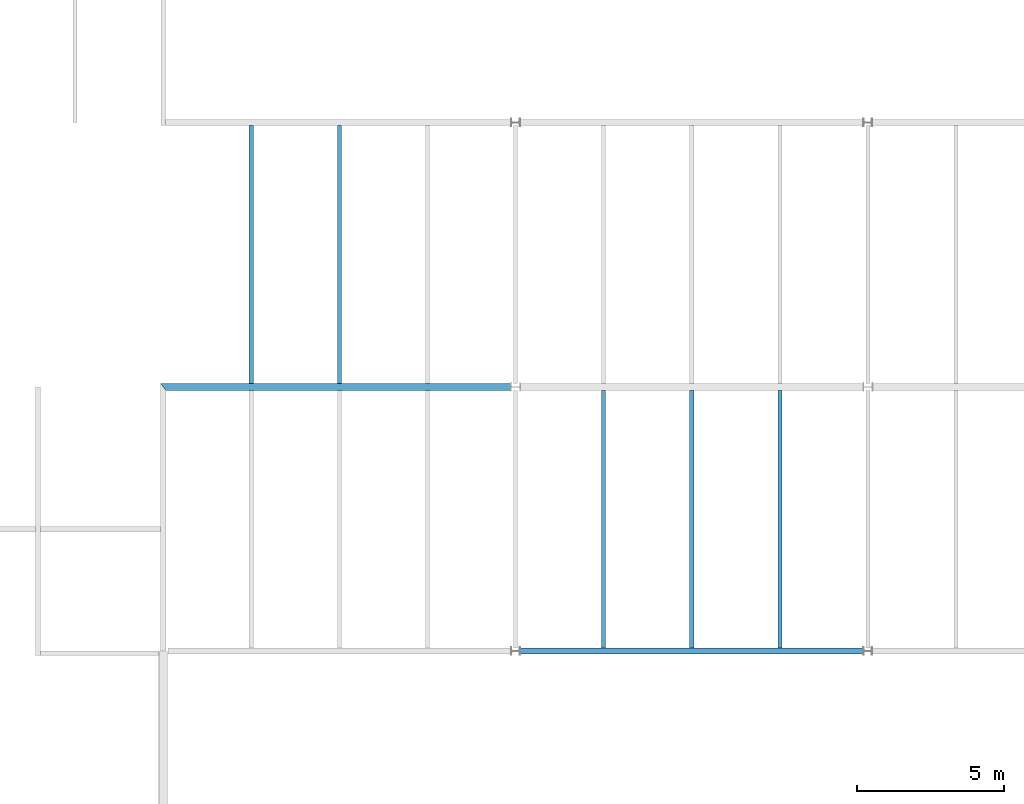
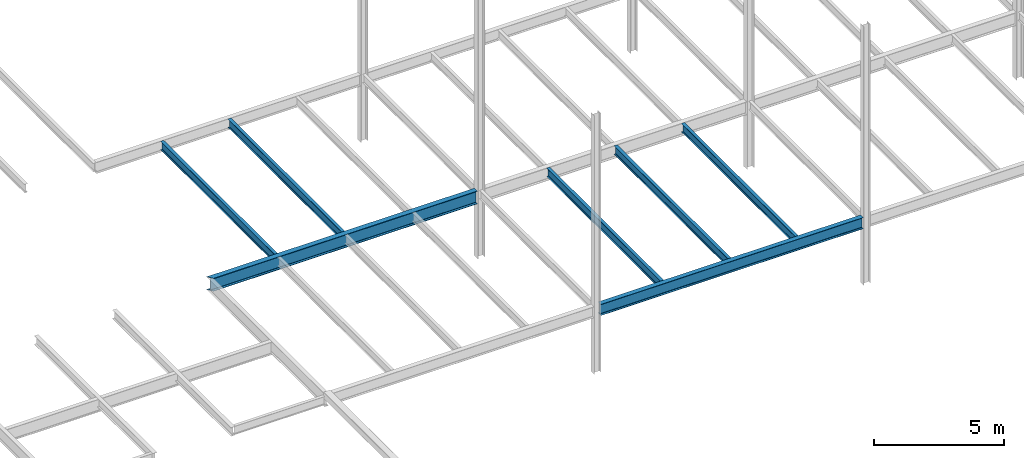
# One storey, part 16 of 26: 7 beams.
"""IFC2X3 building model written with IfcOpenShell, lengths in millimetres."""

from ifc_helpers import new_model, si_unit, origin, place, context, project, spatial, faceted_brep, material, element, save


model = new_model("IFC2X3")

# Units and contexts
context_of_model = context(None, 3, precision=1e-05, world=origin())
ifc_project = project(units=[si_unit("LENGTHUNIT", "METRE", prefix="MILLI")], contexts=[context_of_model])

# Building, storey
building = spatial("IfcBuilding", under=ifc_project, Name="Building", CompositionType="ELEMENT")
storey = spatial("IfcBuildingStorey", under=building, Name="FL4-FRM", CompositionType="ELEMENT")

# Beams
ifc_material_1 = material(Name="A992")
beam_1_placement = place(None, origin())
element("IfcBeam", 1, at=beam_1_placement, inside=storey, material=ifc_material_1, Name="B199", context=context_of_model, shape_type="Brep", body=[
    faceted_brep([(27070.0, 9104.5, 12974.0), (26930.0, 9104.5, 12974.0), (26930.0, 17885.5, 12974.0), (27070.0, 17885.5, 12974.0), (26930.0, 9104.5, 12982.8), (26930.0, 17885.5, 12982.8), (26986.6, 9104.5, 12982.8), (26986.6, 17885.5, 12982.8), (26989.2, 9104.5, 12983.1), (26989.2, 17885.5, 12983.1), (26991.7, 9104.5, 12984.2), (26991.7, 17885.5, 12984.2), (26993.8, 9104.5, 12985.8), (26993.8, 17885.5, 12985.8), (26995.4, 9104.5, 12987.9), (26995.4, 17885.5, 12987.9), (26996.5, 9104.5, 12990.4), (26996.5, 17885.5, 12990.4), (26996.8, 9104.5, 12993.0), (26996.8, 17885.5, 12993.0), (26996.8, 9104.5, 13354.0), (26996.8, 17885.5, 13354.0), (26996.5, 9104.5, 13356.6), (26996.5, 17885.5, 13356.6), (26995.4, 9104.5, 13359.1), (26995.4, 17885.5, 13359.1), (26993.8, 9104.5, 13361.2), (26993.8, 17885.5, 13361.2), (26991.7, 9104.5, 13362.8), (26991.7, 17885.5, 13362.8), (26989.2, 9104.5, 13363.9), (26989.2, 17885.5, 13363.9), (26986.6, 9104.5, 13364.2), (26986.6, 17885.5, 13364.2), (26930.0, 9104.5, 13364.2), (26930.0, 17885.5, 13364.2), (26930.0, 9104.5, 13373.0), (26930.0, 17885.5, 13373.0), (27070.0, 9104.5, 13373.0), (27070.0, 17885.5, 13373.0), (27070.0, 9104.5, 13364.2), (27070.0, 17885.5, 13364.2), (27013.4, 9104.5, 13364.2), (27013.4, 17885.5, 13364.2), (27010.8, 9104.5, 13363.9), (27010.8, 17885.5, 13363.9), (27008.3, 9104.5, 13362.8), (27008.3, 17885.5, 13362.8), (27006.2, 9104.5, 13361.2), (27006.2, 17885.5, 13361.2), (27004.6, 9104.5, 13359.1), (27004.6, 17885.5, 13359.1), (27003.5, 9104.5, 13356.6), (27003.5, 17885.5, 13356.6), (27003.2, 9104.5, 13354.0), (27003.2, 17885.5, 13354.0), (27003.2, 9104.5, 12993.0), (27003.2, 17885.5, 12993.0), (27003.5, 9104.5, 12990.4), (27003.5, 17885.5, 12990.4), (27004.6, 9104.5, 12987.9), (27004.6, 17885.5, 12987.9), (27006.2, 9104.5, 12985.8), (27006.2, 17885.5, 12985.8), (27008.3, 9104.5, 12984.2), (27008.3, 17885.5, 12984.2), (27010.8, 9104.5, 12983.1), (27010.8, 17885.5, 12983.1), (27013.4, 9104.5, 12982.8), (27013.4, 17885.5, 12982.8), (27070.0, 9104.5, 12982.8), (27070.0, 17885.5, 12982.8)], [[[0, 1, 2, 3]], [[1, 4, 5, 2]], [[4, 6, 7, 5]], [[6, 8, 9, 7]], [[8, 10, 11, 9]], [[10, 12, 13, 11]], [[12, 14, 15, 13]], [[14, 16, 17, 15]], [[16, 18, 19, 17]], [[18, 20, 21, 19]], [[20, 22, 23, 21]], [[22, 24, 25, 23]], [[24, 26, 27, 25]], [[26, 28, 29, 27]], [[28, 30, 31, 29]], [[30, 32, 33, 31]], [[32, 34, 35, 33]], [[34, 36, 37, 35]], [[36, 38, 39, 37]], [[38, 40, 41, 39]], [[40, 42, 43, 41]], [[42, 44, 45, 43]], [[44, 46, 47, 45]], [[46, 48, 49, 47]], [[48, 50, 51, 49]], [[50, 52, 53, 51]], [[52, 54, 55, 53]], [[54, 56, 57, 55]], [[56, 58, 59, 57]], [[58, 60, 61, 59]], [[60, 62, 63, 61]], [[62, 64, 65, 63]], [[64, 66, 67, 65]], [[66, 68, 69, 67]], [[68, 70, 71, 69]], [[70, 0, 3, 71]], [[0, 70, 68, 66, 64, 62, 60, 58, 56, 54, 52, 50, 48, 46, 44, 42, 40, 38, 36, 34, 32, 30, 28, 26, 24, 22, 20, 18, 16, 14, 12, 10, 8, 6, 4, 1]], [[3, 2, 5, 7, 9, 11, 13, 15, 17, 19, 21, 23, 25, 27, 29, 31, 33, 35, 37, 39, 41, 43, 45, 47, 49, 51, 53, 55, 57, 59, 61, 63, 65, 67, 69, 71]]]),
])
ifc_material_2 = material(Name="A992")
beam_2_placement = place(None, origin())
element("IfcBeam", 2, at=beam_2_placement, inside=storey, material=ifc_material_2, Name="B200", context=context_of_model, shape_type="Brep", body=[
    faceted_brep([(30070.0, 9104.5, 12974.0), (29930.0, 9104.5, 12974.0), (29930.0, 17885.5, 12974.0), (30070.0, 17885.5, 12974.0), (29930.0, 9104.5, 12982.8), (29930.0, 17885.5, 12982.8), (29986.6, 9104.5, 12982.8), (29986.6, 17885.5, 12982.8), (29989.2, 9104.5, 12983.1), (29989.2, 17885.5, 12983.1), (29991.7, 9104.5, 12984.2), (29991.7, 17885.5, 12984.2), (29993.8, 9104.5, 12985.8), (29993.8, 17885.5, 12985.8), (29995.4, 9104.5, 12987.9), (29995.4, 17885.5, 12987.9), (29996.5, 9104.5, 12990.4), (29996.5, 17885.5, 12990.4), (29996.8, 9104.5, 12993.0), (29996.8, 17885.5, 12993.0), (29996.8, 9104.5, 13354.0), (29996.8, 17885.5, 13354.0), (29996.5, 9104.5, 13356.6), (29996.5, 17885.5, 13356.6), (29995.4, 9104.5, 13359.1), (29995.4, 17885.5, 13359.1), (29993.8, 9104.5, 13361.2), (29993.8, 17885.5, 13361.2), (29991.7, 9104.5, 13362.8), (29991.7, 17885.5, 13362.8), (29989.2, 9104.5, 13363.9), (29989.2, 17885.5, 13363.9), (29986.6, 9104.5, 13364.2), (29986.6, 17885.5, 13364.2), (29930.0, 9104.5, 13364.2), (29930.0, 17885.5, 13364.2), (29930.0, 9104.5, 13373.0), (29930.0, 17885.5, 13373.0), (30070.0, 9104.5, 13373.0), (30070.0, 17885.5, 13373.0), (30070.0, 9104.5, 13364.2), (30070.0, 17885.5, 13364.2), (30013.4, 9104.5, 13364.2), (30013.4, 17885.5, 13364.2), (30010.8, 9104.5, 13363.9), (30010.8, 17885.5, 13363.9), (30008.3, 9104.5, 13362.8), (30008.3, 17885.5, 13362.8), (30006.2, 9104.5, 13361.2), (30006.2, 17885.5, 13361.2), (30004.6, 9104.5, 13359.1), (30004.6, 17885.5, 13359.1), (30003.5, 9104.5, 13356.6), (30003.5, 17885.5, 13356.6), (30003.2, 9104.5, 13354.0), (30003.2, 17885.5, 13354.0), (30003.2, 9104.5, 12993.0), (30003.2, 17885.5, 12993.0), (30003.5, 9104.5, 12990.4), (30003.5, 17885.5, 12990.4), (30004.6, 9104.5, 12987.9), (30004.6, 17885.5, 12987.9), (30006.2, 9104.5, 12985.8), (30006.2, 17885.5, 12985.8), (30008.3, 9104.5, 12984.2), (30008.3, 17885.5, 12984.2), (30010.8, 9104.5, 12983.1), (30010.8, 17885.5, 12983.1), (30013.4, 9104.5, 12982.8), (30013.4, 17885.5, 12982.8), (30070.0, 9104.5, 12982.8), (30070.0, 17885.5, 12982.8)], [[[0, 1, 2, 3]], [[1, 4, 5, 2]], [[4, 6, 7, 5]], [[6, 8, 9, 7]], [[8, 10, 11, 9]], [[10, 12, 13, 11]], [[12, 14, 15, 13]], [[14, 16, 17, 15]], [[16, 18, 19, 17]], [[18, 20, 21, 19]], [[20, 22, 23, 21]], [[22, 24, 25, 23]], [[24, 26, 27, 25]], [[26, 28, 29, 27]], [[28, 30, 31, 29]], [[30, 32, 33, 31]], [[32, 34, 35, 33]], [[34, 36, 37, 35]], [[36, 38, 39, 37]], [[38, 40, 41, 39]], [[40, 42, 43, 41]], [[42, 44, 45, 43]], [[44, 46, 47, 45]], [[46, 48, 49, 47]], [[48, 50, 51, 49]], [[50, 52, 53, 51]], [[52, 54, 55, 53]], [[54, 56, 57, 55]], [[56, 58, 59, 57]], [[58, 60, 61, 59]], [[60, 62, 63, 61]], [[62, 64, 65, 63]], [[64, 66, 67, 65]], [[66, 68, 69, 67]], [[68, 70, 71, 69]], [[70, 0, 3, 71]], [[0, 70, 68, 66, 64, 62, 60, 58, 56, 54, 52, 50, 48, 46, 44, 42, 40, 38, 36, 34, 32, 30, 28, 26, 24, 22, 20, 18, 16, 14, 12, 10, 8, 6, 4, 1]], [[3, 2, 5, 7, 9, 11, 13, 15, 17, 19, 21, 23, 25, 27, 29, 31, 33, 35, 37, 39, 41, 43, 45, 47, 49, 51, 53, 55, 57, 59, 61, 63, 65, 67, 69, 71]]]),
])
ifc_material_3 = material(Name="A992")
beam_3_placement = place(None, origin())
element("IfcBeam", 3, at=beam_3_placement, inside=storey, material=ifc_material_3, Name="B203", context=context_of_model, shape_type="Brep", body=[
    faceted_brep([(33070.0, 9104.5, 12974.0), (32930.0, 9104.5, 12974.0), (32930.0, 17885.5, 12974.0), (33070.0, 17885.5, 12974.0), (32930.0, 9104.5, 12982.8), (32930.0, 17885.5, 12982.8), (32986.6, 9104.5, 12982.8), (32986.6, 17885.5, 12982.8), (32989.2, 9104.5, 12983.1), (32989.2, 17885.5, 12983.1), (32991.7, 9104.5, 12984.2), (32991.7, 17885.5, 12984.2), (32993.8, 9104.5, 12985.8), (32993.8, 17885.5, 12985.8), (32995.4, 9104.5, 12987.9), (32995.4, 17885.5, 12987.9), (32996.5, 9104.5, 12990.4), (32996.5, 17885.5, 12990.4), (32996.8, 9104.5, 12993.0), (32996.8, 17885.5, 12993.0), (32996.8, 9104.5, 13354.0), (32996.8, 17885.5, 13354.0), (32996.5, 9104.5, 13356.6), (32996.5, 17885.5, 13356.6), (32995.4, 9104.5, 13359.1), (32995.4, 17885.5, 13359.1), (32993.8, 9104.5, 13361.2), (32993.8, 17885.5, 13361.2), (32991.7, 9104.5, 13362.8), (32991.7, 17885.5, 13362.8), (32989.2, 9104.5, 13363.9), (32989.2, 17885.5, 13363.9), (32986.6, 9104.5, 13364.2), (32986.6, 17885.5, 13364.2), (32930.0, 9104.5, 13364.2), (32930.0, 17885.5, 13364.2), (32930.0, 9104.5, 13373.0), (32930.0, 17885.5, 13373.0), (33070.0, 9104.5, 13373.0), (33070.0, 17885.5, 13373.0), (33070.0, 9104.5, 13364.2), (33070.0, 17885.5, 13364.2), (33013.4, 9104.5, 13364.2), (33013.4, 17885.5, 13364.2), (33010.8, 9104.5, 13363.9), (33010.8, 17885.5, 13363.9), (33008.3, 9104.5, 13362.8), (33008.3, 17885.5, 13362.8), (33006.2, 9104.5, 13361.2), (33006.2, 17885.5, 13361.2), (33004.6, 9104.5, 13359.1), (33004.6, 17885.5, 13359.1), (33003.5, 9104.5, 13356.6), (33003.5, 17885.5, 13356.6), (33003.2, 9104.5, 13354.0), (33003.2, 17885.5, 13354.0), (33003.2, 9104.5, 12993.0), (33003.2, 17885.5, 12993.0), (33003.5, 9104.5, 12990.4), (33003.5, 17885.5, 12990.4), (33004.6, 9104.5, 12987.9), (33004.6, 17885.5, 12987.9), (33006.2, 9104.5, 12985.8), (33006.2, 17885.5, 12985.8), (33008.3, 9104.5, 12984.2), (33008.3, 17885.5, 12984.2), (33010.8, 9104.5, 12983.1), (33010.8, 17885.5, 12983.1), (33013.4, 9104.5, 12982.8), (33013.4, 17885.5, 12982.8), (33070.0, 9104.5, 12982.8), (33070.0, 17885.5, 12982.8)], [[[0, 1, 2, 3]], [[1, 4, 5, 2]], [[4, 6, 7, 5]], [[6, 8, 9, 7]], [[8, 10, 11, 9]], [[10, 12, 13, 11]], [[12, 14, 15, 13]], [[14, 16, 17, 15]], [[16, 18, 19, 17]], [[18, 20, 21, 19]], [[20, 22, 23, 21]], [[22, 24, 25, 23]], [[24, 26, 27, 25]], [[26, 28, 29, 27]], [[28, 30, 31, 29]], [[30, 32, 33, 31]], [[32, 34, 35, 33]], [[34, 36, 37, 35]], [[36, 38, 39, 37]], [[38, 40, 41, 39]], [[40, 42, 43, 41]], [[42, 44, 45, 43]], [[44, 46, 47, 45]], [[46, 48, 49, 47]], [[48, 50, 51, 49]], [[50, 52, 53, 51]], [[52, 54, 55, 53]], [[54, 56, 57, 55]], [[56, 58, 59, 57]], [[58, 60, 61, 59]], [[60, 62, 63, 61]], [[62, 64, 65, 63]], [[64, 66, 67, 65]], [[66, 68, 69, 67]], [[68, 70, 71, 69]], [[70, 0, 3, 71]], [[0, 70, 68, 66, 64, 62, 60, 58, 56, 54, 52, 50, 48, 46, 44, 42, 40, 38, 36, 34, 32, 30, 28, 26, 24, 22, 20, 18, 16, 14, 12, 10, 8, 6, 4, 1]], [[3, 2, 5, 7, 9, 11, 13, 15, 17, 19, 21, 23, 25, 27, 29, 31, 33, 35, 37, 39, 41, 43, 45, 47, 49, 51, 53, 55, 57, 59, 61, 63, 65, 67, 69, 71]]]),
])
ifc_material_4 = material(Name="A992")
beam_4_placement = place(None, origin())
element("IfcBeam", 4, at=beam_4_placement, inside=storey, material=ifc_material_4, Name="Column385", context=context_of_model, shape_type="Brep", body=[
    faceted_brep([(24153.0, 8895.5, 12845.0), (24153.0, 9104.5, 12845.0), (35847.0, 9104.5, 12845.0), (35847.0, 8895.5, 12845.0), (24153.0, 9104.5, 12858.3), (35847.0, 9104.5, 12858.3), (24153.0, 9017.45, 12858.3), (35847.0, 9017.45, 12858.3), (24153.0, 9014.16, 12858.7), (35847.0, 9014.16, 12858.7), (24153.0, 9011.1, 12860.0), (35847.0, 9011.1, 12860.0), (24153.0, 9008.47, 12862.0), (35847.0, 9008.47, 12862.0), (24153.0, 9006.45, 12864.7), (35847.0, 9006.45, 12864.7), (24153.0, 9005.18, 12867.7), (35847.0, 9005.18, 12867.7), (24153.0, 9004.75, 12871.0), (35847.0, 9004.75, 12871.0), (24153.0, 9004.75, 13347.0), (35847.0, 9004.75, 13347.0), (24153.0, 9005.18, 13350.3), (35847.0, 9005.18, 13350.3), (24153.0, 9006.45, 13353.3), (35847.0, 9006.45, 13353.3), (24153.0, 9008.47, 13356.0), (35847.0, 9008.47, 13356.0), (24153.0, 9011.1, 13358.0), (35847.0, 9011.1, 13358.0), (24153.0, 9014.16, 13359.3), (35847.0, 9014.16, 13359.3), (24153.0, 9017.45, 13359.7), (35847.0, 9017.45, 13359.7), (24153.0, 9104.5, 13359.7), (35847.0, 9104.5, 13359.7), (24153.0, 9104.5, 13373.0), (35847.0, 9104.5, 13373.0), (24153.0, 8895.5, 13373.0), (35847.0, 8895.5, 13373.0), (24153.0, 8895.5, 13359.7), (35847.0, 8895.5, 13359.7), (24153.0, 8982.55, 13359.7), (35847.0, 8982.55, 13359.7), (24153.0, 8985.84, 13359.3), (35847.0, 8985.84, 13359.3), (24153.0, 8988.9, 13358.0), (35847.0, 8988.9, 13358.0), (24153.0, 8991.53, 13356.0), (35847.0, 8991.53, 13356.0), (24153.0, 8993.55, 13353.3), (35847.0, 8993.55, 13353.3), (24153.0, 8994.82, 13350.3), (35847.0, 8994.82, 13350.3), (24153.0, 8995.25, 13347.0), (35847.0, 8995.25, 13347.0), (24153.0, 8995.25, 12871.0), (35847.0, 8995.25, 12871.0), (24153.0, 8994.82, 12867.7), (35847.0, 8994.82, 12867.7), (24153.0, 8993.55, 12864.7), (35847.0, 8993.55, 12864.7), (24153.0, 8991.53, 12862.0), (35847.0, 8991.53, 12862.0), (24153.0, 8988.9, 12860.0), (35847.0, 8988.9, 12860.0), (24153.0, 8985.84, 12858.7), (35847.0, 8985.84, 12858.7), (24153.0, 8982.55, 12858.3), (35847.0, 8982.55, 12858.3), (24153.0, 8895.5, 12858.3), (35847.0, 8895.5, 12858.3)], [[[0, 1, 2, 3]], [[1, 4, 5, 2]], [[4, 6, 7, 5]], [[6, 8, 9, 7]], [[8, 10, 11, 9]], [[10, 12, 13, 11]], [[12, 14, 15, 13]], [[14, 16, 17, 15]], [[16, 18, 19, 17]], [[18, 20, 21, 19]], [[20, 22, 23, 21]], [[22, 24, 25, 23]], [[24, 26, 27, 25]], [[26, 28, 29, 27]], [[28, 30, 31, 29]], [[30, 32, 33, 31]], [[32, 34, 35, 33]], [[34, 36, 37, 35]], [[36, 38, 39, 37]], [[38, 40, 41, 39]], [[40, 42, 43, 41]], [[42, 44, 45, 43]], [[44, 46, 47, 45]], [[46, 48, 49, 47]], [[48, 50, 51, 49]], [[50, 52, 53, 51]], [[52, 54, 55, 53]], [[54, 56, 57, 55]], [[56, 58, 59, 57]], [[58, 60, 61, 59]], [[60, 62, 63, 61]], [[62, 64, 65, 63]], [[64, 66, 67, 65]], [[66, 68, 69, 67]], [[68, 70, 71, 69]], [[70, 0, 3, 71]], [[0, 70, 68, 66, 64, 62, 60, 58, 56, 54, 52, 50, 48, 46, 44, 42, 40, 38, 36, 34, 32, 30, 28, 26, 24, 22, 20, 18, 16, 14, 12, 10, 8, 6, 4, 1]], [[3, 2, 5, 7, 9, 11, 13, 15, 17, 19, 21, 23, 25, 27, 29, 31, 33, 35, 37, 39, 41, 43, 45, 47, 49, 51, 53, 55, 57, 59, 61, 63, 65, 67, 69, 71]]]),
])
ifc_material_5 = material(Name="A992")
beam_5_placement = place(None, origin())
element("IfcBeam", 5, at=beam_5_placement, inside=storey, material=ifc_material_5, Name="B207", context=context_of_model, shape_type="Brep", body=[
    faceted_brep([(17930.0, 26895.5, 12974.0), (18070.0, 26895.5, 12974.0), (18070.0, 18114.5, 12974.0), (17930.0, 18114.5, 12974.0), (18070.0, 26895.5, 12982.8), (18070.0, 18114.5, 12982.8), (18013.4, 26895.5, 12982.8), (18013.4, 18114.5, 12982.8), (18010.8, 26895.5, 12983.1), (18010.8, 18114.5, 12983.1), (18008.3, 26895.5, 12984.2), (18008.3, 18114.5, 12984.2), (18006.2, 26895.5, 12985.8), (18006.2, 18114.5, 12985.8), (18004.6, 26895.5, 12987.9), (18004.6, 18114.5, 12987.9), (18003.5, 26895.5, 12990.4), (18003.5, 18114.5, 12990.4), (18003.2, 26895.5, 12993.0), (18003.2, 18114.5, 12993.0), (18003.2, 26895.5, 13354.0), (18003.2, 18114.5, 13354.0), (18003.5, 26895.5, 13356.6), (18003.5, 18114.5, 13356.6), (18004.6, 26895.5, 13359.1), (18004.6, 18114.5, 13359.1), (18006.2, 26895.5, 13361.2), (18006.2, 18114.5, 13361.2), (18008.3, 26895.5, 13362.8), (18008.3, 18114.5, 13362.8), (18010.8, 26895.5, 13363.9), (18010.8, 18114.5, 13363.9), (18013.4, 26895.5, 13364.2), (18013.4, 18114.5, 13364.2), (18070.0, 26895.5, 13364.2), (18070.0, 18114.5, 13364.2), (18070.0, 26895.5, 13373.0), (18070.0, 18114.5, 13373.0), (17930.0, 26895.5, 13373.0), (17930.0, 18114.5, 13373.0), (17930.0, 26895.5, 13364.2), (17930.0, 18114.5, 13364.2), (17986.6, 26895.5, 13364.2), (17986.6, 18114.5, 13364.2), (17989.2, 26895.5, 13363.9), (17989.2, 18114.5, 13363.9), (17991.7, 26895.5, 13362.8), (17991.7, 18114.5, 13362.8), (17993.8, 26895.5, 13361.2), (17993.8, 18114.5, 13361.2), (17995.4, 26895.5, 13359.1), (17995.4, 18114.5, 13359.1), (17996.5, 26895.5, 13356.6), (17996.5, 18114.5, 13356.6), (17996.8, 26895.5, 13354.0), (17996.8, 18114.5, 13354.0), (17996.8, 26895.5, 12993.0), (17996.8, 18114.5, 12993.0), (17996.5, 26895.5, 12990.4), (17996.5, 18114.5, 12990.4), (17995.4, 26895.5, 12987.9), (17995.4, 18114.5, 12987.9), (17993.8, 26895.5, 12985.8), (17993.8, 18114.5, 12985.8), (17991.7, 26895.5, 12984.2), (17991.7, 18114.5, 12984.2), (17989.2, 26895.5, 12983.1), (17989.2, 18114.5, 12983.1), (17986.6, 26895.5, 12982.8), (17986.6, 18114.5, 12982.8), (17930.0, 26895.5, 12982.8), (17930.0, 18114.5, 12982.8)], [[[0, 1, 2, 3]], [[1, 4, 5, 2]], [[4, 6, 7, 5]], [[6, 8, 9, 7]], [[8, 10, 11, 9]], [[10, 12, 13, 11]], [[12, 14, 15, 13]], [[14, 16, 17, 15]], [[16, 18, 19, 17]], [[18, 20, 21, 19]], [[20, 22, 23, 21]], [[22, 24, 25, 23]], [[24, 26, 27, 25]], [[26, 28, 29, 27]], [[28, 30, 31, 29]], [[30, 32, 33, 31]], [[32, 34, 35, 33]], [[34, 36, 37, 35]], [[36, 38, 39, 37]], [[38, 40, 41, 39]], [[40, 42, 43, 41]], [[42, 44, 45, 43]], [[44, 46, 47, 45]], [[46, 48, 49, 47]], [[48, 50, 51, 49]], [[50, 52, 53, 51]], [[52, 54, 55, 53]], [[54, 56, 57, 55]], [[56, 58, 59, 57]], [[58, 60, 61, 59]], [[60, 62, 63, 61]], [[62, 64, 65, 63]], [[64, 66, 67, 65]], [[66, 68, 69, 67]], [[68, 70, 71, 69]], [[70, 0, 3, 71]], [[0, 70, 68, 66, 64, 62, 60, 58, 56, 54, 52, 50, 48, 46, 44, 42, 40, 38, 36, 34, 32, 30, 28, 26, 24, 22, 20, 18, 16, 14, 12, 10, 8, 6, 4, 1]], [[3, 2, 5, 7, 9, 11, 13, 15, 17, 19, 21, 23, 25, 27, 29, 31, 33, 35, 37, 39, 41, 43, 45, 47, 49, 51, 53, 55, 57, 59, 61, 63, 65, 67, 69, 71]]]),
])
ifc_material_6 = material(Name="A992")
beam_6_placement = place(None, origin())
element("IfcBeam", 6, at=beam_6_placement, inside=storey, material=ifc_material_6, Name="Column386", context=context_of_model, shape_type="Brep", body=[
    faceted_brep([(12089.5, 17885.5, 12761.0), (11910.5, 18114.5, 12761.0), (23843.0, 18114.5, 12761.0), (23843.0, 17885.5, 12761.0), (11910.5, 18114.5, 12780.6), (23843.0, 18114.5, 12780.6), (11985.4, 18018.6, 12780.6), (23843.0, 18018.6, 12780.6), (11986.8, 18016.9, 12780.7), (23843.0, 18016.8, 12780.7), (11988.2, 18015.1, 12781.1), (23843.0, 18015.1, 12781.1), (11989.5, 18013.4, 12781.7), (23843.0, 18013.4, 12781.7), (11990.8, 18011.8, 12782.6), (23843.0, 18011.8, 12782.6), (11991.9, 18010.4, 12783.7), (23843.0, 18010.3, 12783.7), (11992.9, 18009.1, 12785.0), (23843.0, 18009.1, 12785.0), (11993.8, 18008.0, 12786.4), (23843.0, 18008.0, 12786.4), (11994.4, 18007.1, 12788.0), (23843.0, 18007.1, 12788.0), (11994.9, 18006.5, 12789.7), (23843.0, 18006.5, 12789.7), (11995.2, 18006.1, 12791.5), (23843.0, 18006.1, 12791.5), (11995.3, 18005.9, 12793.3), (23843.0, 18005.9, 12793.3), (11995.3, 18005.9, 13340.7), (23843.0, 18005.9, 13340.7), (11995.2, 18006.1, 13342.5), (23843.0, 18006.1, 13342.5), (11994.9, 18006.5, 13344.3), (23843.0, 18006.5, 13344.3), (11994.4, 18007.1, 13346.0), (23843.0, 18007.1, 13346.0), (11993.8, 18008.0, 13347.6), (23843.0, 18008.0, 13347.6), (11992.9, 18009.1, 13349.0), (23843.0, 18009.1, 13349.0), (11991.9, 18010.4, 13350.3), (23843.0, 18010.3, 13350.3), (11990.8, 18011.8, 13351.4), (23843.0, 18011.8, 13351.4), (11989.5, 18013.4, 13352.3), (23843.0, 18013.4, 13352.3), (11988.2, 18015.1, 13352.9), (23843.0, 18015.1, 13352.9), (11986.8, 18016.9, 13353.3), (23843.0, 18016.8, 13353.3), (11985.4, 18018.6, 13353.4), (23843.0, 18018.6, 13353.4), (11910.5, 18114.5, 13353.4), (23843.0, 18114.5, 13353.4), (11910.5, 18114.5, 13373.0), (23843.0, 18114.5, 13373.0), (12089.5, 17885.5, 13373.0), (23843.0, 17885.5, 13373.0), (12089.5, 17885.5, 13353.4), (23843.0, 17885.5, 13353.4), (12014.6, 17981.4, 13353.4), (23843.0, 17981.4, 13353.4), (12013.2, 17983.1, 13353.3), (23843.0, 17983.2, 13353.3), (12011.8, 17984.9, 13352.9), (23843.0, 17984.9, 13352.9), (12010.5, 17986.6, 13352.3), (23843.0, 17986.6, 13352.3), (12009.2, 17988.2, 13351.4), (23843.0, 17988.2, 13351.4), (12008.1, 17989.6, 13350.3), (23843.0, 17989.7, 13350.3), (12007.1, 17990.9, 13349.0), (23843.0, 17990.9, 13349.0), (12006.2, 17992.0, 13347.6), (23843.0, 17992.0, 13347.6), (12005.6, 17992.9, 13346.0), (23843.0, 17992.9, 13346.0), (12005.1, 17993.5, 13344.3), (23843.0, 17993.5, 13344.3), (12004.8, 17993.9, 13342.5), (23843.0, 17993.9, 13342.5), (12004.7, 17994.1, 13340.7), (23843.0, 17994.1, 13340.7), (12004.7, 17994.1, 12793.3), (23843.0, 17994.1, 12793.3), (12004.8, 17993.9, 12791.5), (23843.0, 17993.9, 12791.5), (12005.1, 17993.5, 12789.7), (23843.0, 17993.5, 12789.7), (12005.6, 17992.9, 12788.0), (23843.0, 17992.9, 12788.0), (12006.2, 17992.0, 12786.4), (23843.0, 17992.0, 12786.4), (12007.1, 17990.9, 12785.0), (23843.0, 17990.9, 12785.0), (12008.1, 17989.6, 12783.7), (23843.0, 17989.7, 12783.7), (12009.2, 17988.2, 12782.6), (23843.0, 17988.2, 12782.6), (12010.5, 17986.6, 12781.7), (23843.0, 17986.6, 12781.7), (12011.8, 17984.9, 12781.1), (23843.0, 17984.9, 12781.1), (12013.2, 17983.1, 12780.7), (23843.0, 17983.2, 12780.7), (12014.6, 17981.4, 12780.6), (23843.0, 17981.4, 12780.6), (12089.5, 17885.5, 12780.6), (23843.0, 17885.5, 12780.6)], [[[0, 1, 2, 3]], [[1, 4, 5, 2]], [[4, 6, 7, 5]], [[6, 8, 9, 7]], [[8, 10, 11, 9]], [[10, 12, 13, 11]], [[12, 14, 15, 13]], [[14, 16, 17, 15]], [[16, 18, 19, 17]], [[18, 20, 21, 19]], [[20, 22, 23, 21]], [[22, 24, 25, 23]], [[24, 26, 27, 25]], [[26, 28, 29, 27]], [[28, 30, 31, 29]], [[30, 32, 33, 31]], [[32, 34, 35, 33]], [[34, 36, 37, 35]], [[36, 38, 39, 37]], [[38, 40, 41, 39]], [[40, 42, 43, 41]], [[42, 44, 45, 43]], [[44, 46, 47, 45]], [[46, 48, 49, 47]], [[48, 50, 51, 49]], [[50, 52, 53, 51]], [[52, 54, 55, 53]], [[54, 56, 57, 55]], [[56, 58, 59, 57]], [[58, 60, 61, 59]], [[60, 62, 63, 61]], [[62, 64, 65, 63]], [[64, 66, 67, 65]], [[66, 68, 69, 67]], [[68, 70, 71, 69]], [[70, 72, 73, 71]], [[72, 74, 75, 73]], [[74, 76, 77, 75]], [[76, 78, 79, 77]], [[78, 80, 81, 79]], [[80, 82, 83, 81]], [[82, 84, 85, 83]], [[84, 86, 87, 85]], [[86, 88, 89, 87]], [[88, 90, 91, 89]], [[90, 92, 93, 91]], [[92, 94, 95, 93]], [[94, 96, 97, 95]], [[96, 98, 99, 97]], [[98, 100, 101, 99]], [[100, 102, 103, 101]], [[102, 104, 105, 103]], [[104, 106, 107, 105]], [[106, 108, 109, 107]], [[108, 110, 111, 109]], [[110, 0, 3, 111]], [[0, 110, 108, 106, 104, 102, 100, 98, 96, 94, 92, 90, 88, 86, 84, 82, 80, 78, 76, 74, 72, 70, 68, 66, 64, 62, 60, 58, 56, 54, 52, 50, 48, 46, 44, 42, 40, 38, 36, 34, 32, 30, 28, 26, 24, 22, 20, 18, 16, 14, 12, 10, 8, 6, 4, 1]], [[3, 2, 5, 7, 9, 11, 13, 15, 17, 19, 21, 23, 25, 27, 29, 31, 33, 35, 37, 39, 41, 43, 45, 47, 49, 51, 53, 55, 57, 59, 61, 63, 65, 67, 69, 71, 73, 75, 77, 79, 81, 83, 85, 87, 89, 91, 93, 95, 97, 99, 101, 103, 105, 107, 109, 111]]]),
])
ifc_material_7 = material(Name="A992")
beam_7_placement = place(None, origin())
element("IfcBeam", 7, at=beam_7_placement, inside=storey, material=ifc_material_7, Name="B1030", context=context_of_model, shape_type="Brep", body=[
    faceted_brep([(14930.0, 26895.5, 12974.0), (15070.0, 26895.5, 12974.0), (15070.0, 18114.5, 12974.0), (14930.0, 18114.5, 12974.0), (15070.0, 26895.5, 12982.8), (15070.0, 18114.5, 12982.8), (15013.4, 26895.5, 12982.8), (15013.4, 18114.5, 12982.8), (15010.8, 26895.5, 12983.1), (15010.8, 18114.5, 12983.1), (15008.3, 26895.5, 12984.2), (15008.3, 18114.5, 12984.2), (15006.2, 26895.5, 12985.8), (15006.2, 18114.5, 12985.8), (15004.6, 26895.5, 12987.9), (15004.6, 18114.5, 12987.9), (15003.5, 26895.5, 12990.4), (15003.5, 18114.5, 12990.4), (15003.2, 26895.5, 12993.0), (15003.2, 18114.5, 12993.0), (15003.2, 26895.5, 13354.0), (15003.2, 18114.5, 13354.0), (15003.5, 26895.5, 13356.6), (15003.5, 18114.5, 13356.6), (15004.6, 26895.5, 13359.1), (15004.6, 18114.5, 13359.1), (15006.2, 26895.5, 13361.2), (15006.2, 18114.5, 13361.2), (15008.3, 26895.5, 13362.8), (15008.3, 18114.5, 13362.8), (15010.8, 26895.5, 13363.9), (15010.8, 18114.5, 13363.9), (15013.4, 26895.5, 13364.2), (15013.4, 18114.5, 13364.2), (15070.0, 26895.5, 13364.2), (15070.0, 18114.5, 13364.2), (15070.0, 26895.5, 13373.0), (15070.0, 18114.5, 13373.0), (14930.0, 26895.5, 13373.0), (14930.0, 18114.5, 13373.0), (14930.0, 26895.5, 13364.2), (14930.0, 18114.5, 13364.2), (14986.6, 26895.5, 13364.2), (14986.6, 18114.5, 13364.2), (14989.2, 26895.5, 13363.9), (14989.2, 18114.5, 13363.9), (14991.7, 26895.5, 13362.8), (14991.7, 18114.5, 13362.8), (14993.8, 26895.5, 13361.2), (14993.8, 18114.5, 13361.2), (14995.4, 26895.5, 13359.1), (14995.4, 18114.5, 13359.1), (14996.5, 26895.5, 13356.6), (14996.5, 18114.5, 13356.6), (14996.8, 26895.5, 13354.0), (14996.8, 18114.5, 13354.0), (14996.8, 26895.5, 12993.0), (14996.8, 18114.5, 12993.0), (14996.5, 26895.5, 12990.4), (14996.5, 18114.5, 12990.4), (14995.4, 26895.5, 12987.9), (14995.4, 18114.5, 12987.9), (14993.8, 26895.5, 12985.8), (14993.8, 18114.5, 12985.8), (14991.7, 26895.5, 12984.2), (14991.7, 18114.5, 12984.2), (14989.2, 26895.5, 12983.1), (14989.2, 18114.5, 12983.1), (14986.6, 26895.5, 12982.8), (14986.6, 18114.5, 12982.8), (14930.0, 26895.5, 12982.8), (14930.0, 18114.5, 12982.8)], [[[0, 1, 2, 3]], [[1, 4, 5, 2]], [[4, 6, 7, 5]], [[6, 8, 9, 7]], [[8, 10, 11, 9]], [[10, 12, 13, 11]], [[12, 14, 15, 13]], [[14, 16, 17, 15]], [[16, 18, 19, 17]], [[18, 20, 21, 19]], [[20, 22, 23, 21]], [[22, 24, 25, 23]], [[24, 26, 27, 25]], [[26, 28, 29, 27]], [[28, 30, 31, 29]], [[30, 32, 33, 31]], [[32, 34, 35, 33]], [[34, 36, 37, 35]], [[36, 38, 39, 37]], [[38, 40, 41, 39]], [[40, 42, 43, 41]], [[42, 44, 45, 43]], [[44, 46, 47, 45]], [[46, 48, 49, 47]], [[48, 50, 51, 49]], [[50, 52, 53, 51]], [[52, 54, 55, 53]], [[54, 56, 57, 55]], [[56, 58, 59, 57]], [[58, 60, 61, 59]], [[60, 62, 63, 61]], [[62, 64, 65, 63]], [[64, 66, 67, 65]], [[66, 68, 69, 67]], [[68, 70, 71, 69]], [[70, 0, 3, 71]], [[0, 70, 68, 66, 64, 62, 60, 58, 56, 54, 52, 50, 48, 46, 44, 42, 40, 38, 36, 34, 32, 30, 28, 26, 24, 22, 20, 18, 16, 14, 12, 10, 8, 6, 4, 1]], [[3, 2, 5, 7, 9, 11, 13, 15, 17, 19, 21, 23, 25, 27, 29, 31, 33, 35, 37, 39, 41, 43, 45, 47, 49, 51, 53, 55, 57, 59, 61, 63, 65, 67, 69, 71]]]),
])

save(model, "model.ifc")
